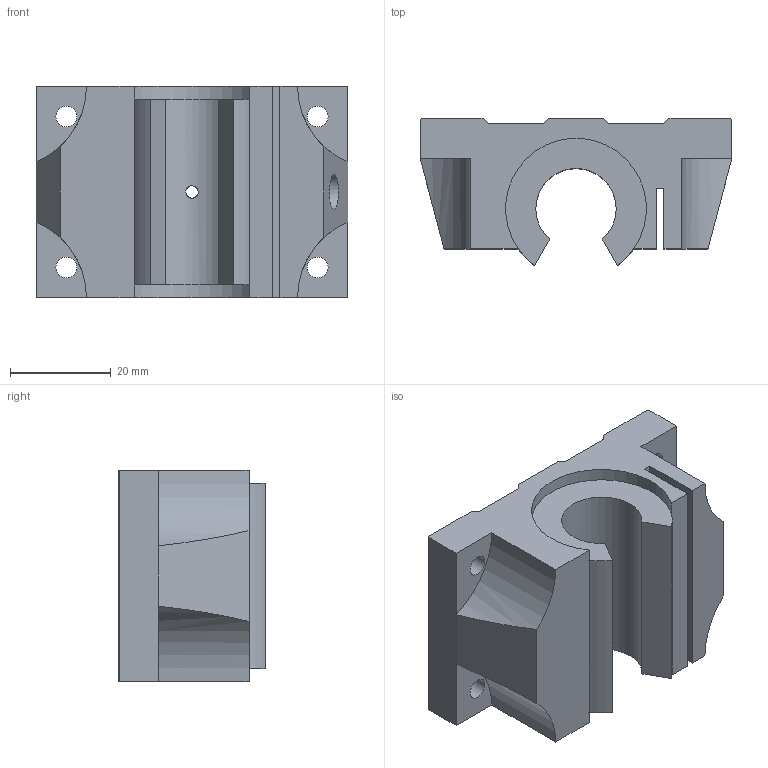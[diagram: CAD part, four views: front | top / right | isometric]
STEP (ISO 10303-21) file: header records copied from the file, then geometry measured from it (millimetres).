
FILE_DESCRIPTION(/* description */ (''),/* implementation_level */ '2;1');
FILE_NAME(/* name */ 'C:\Users\daviddillkoetter\nextcloud\Kamp und Kötter\Artikel\Linearführung D16\02_STEP-Dateien\Linearwagen D16-FLANSCH.stp',/* time_stamp */ '2022-12-14T08:52:33+01:00',/* author */ ('daviddillkoetter'),/* organization */ (''),/* preprocessor_version */ 'ST-DEVELOPER v19',/* originating_system */ 'Autodesk Inventor 2023',/* authorisation */ '');
FILE_SCHEMA (('AUTOMOTIVE_DESIGN { 1 0 10303 214 3 1 1 }'));
Length unit declared in the file: millimetre
Products named in the file (1): Linearwagen D16-FLANSCH
Bounding box: 62 x 29.31 x 42 mm (x, y, z)
Volume: 46664.1 mm3; surface area: 12600.8 mm2
Topology: 1 solids, 1 shells, 53 faces, 137 edges, 87 vertices
Faces by surface type: plane 32, cylinder 16, cone 5
Full cylindrical faces by diameter (mm): 2.459 x1, 3.242 x1, 4.134 x4, 7 x1
Entity records: 1705 total; most frequent: CARTESIAN_POINT 311, DIRECTION 284, ORIENTED_EDGE 274, EDGE_CURVE 137, LINE 96, VECTOR 96, AXIS2_PLACEMENT_3D 94, VERTEX_POINT 87
